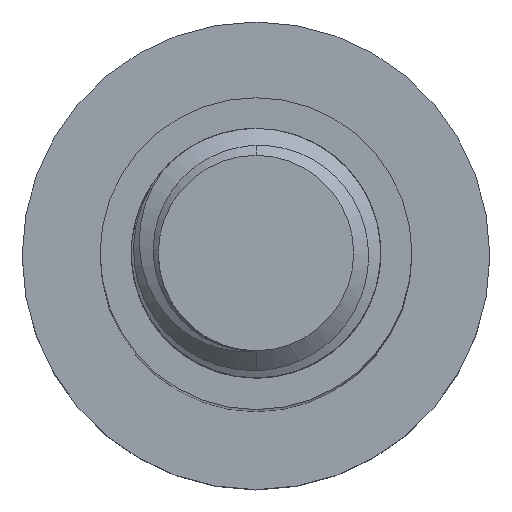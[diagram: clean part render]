
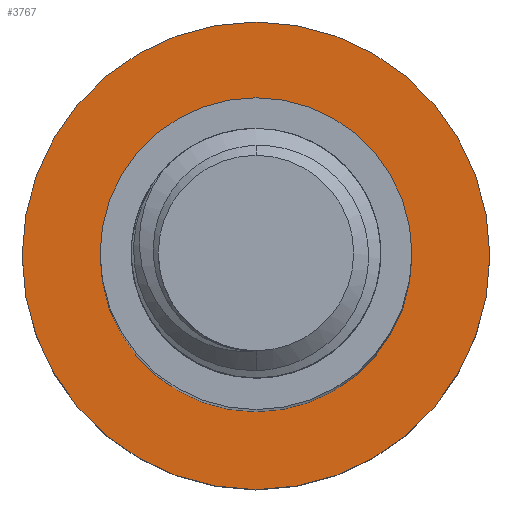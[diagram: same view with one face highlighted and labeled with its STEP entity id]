
A CAD part, top view. The second image highlights one B-rep face of the part: STEP entity #3767.
In plain terms, the highlighted planar face has unit normal (0, 0, 1).
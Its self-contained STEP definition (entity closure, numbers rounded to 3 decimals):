
#112 = EDGE_LOOP ( 'NONE', ( #1262, #1856 ) ) ;
#119 = CARTESIAN_POINT ( 'NONE',  ( -10., 0., -80. ) ) ;
#229 = VERTEX_POINT ( 'NONE', #4167 ) ;
#297 = CARTESIAN_POINT ( 'NONE',  ( 0., 0., -80. ) ) ;
#426 = ORIENTED_EDGE ( 'NONE', *, *, #3698, .T. ) ;
#587 = DIRECTION ( 'NONE',  ( 0., 0., -1. ) ) ;
#716 = DIRECTION ( 'NONE',  ( 0., 0., -1. ) ) ;
#772 = DIRECTION ( 'NONE',  ( 0., 0., -1. ) ) ;
#805 = AXIS2_PLACEMENT_3D ( 'NONE', #3982, #3556, #5312 ) ;
#895 = CIRCLE ( 'NONE', #805, 10. ) ;
#1150 = VERTEX_POINT ( 'NONE', #4763 ) ;
#1176 = DIRECTION ( 'NONE',  ( -1., 0., 0. ) ) ;
#1257 = EDGE_LOOP ( 'NONE', ( #3364, #426 ) ) ;
#1262 = ORIENTED_EDGE ( 'NONE', *, *, #2253, .F. ) ;
#1356 = CIRCLE ( 'NONE', #1810, 15. ) ;
#1576 = PLANE ( 'NONE',  #4303 ) ;
#1661 = EDGE_CURVE ( 'NONE', #2205, #1150, #895, .T. ) ;
#1810 = AXIS2_PLACEMENT_3D ( 'NONE', #3127, #587, #5340 ) ;
#1856 = ORIENTED_EDGE ( 'NONE', *, *, #2531, .F. ) ;
#2205 = VERTEX_POINT ( 'NONE', #119 ) ;
#2253 = EDGE_CURVE ( 'NONE', #3308, #229, #1356, .T. ) ;
#2531 = EDGE_CURVE ( 'NONE', #229, #3308, #3930, .T. ) ;
#3127 = CARTESIAN_POINT ( 'NONE',  ( 0., 0., -80. ) ) ;
#3308 = VERTEX_POINT ( 'NONE', #3705 ) ;
#3338 = CARTESIAN_POINT ( 'NONE',  ( 0., 0., -80. ) ) ;
#3364 = ORIENTED_EDGE ( 'NONE', *, *, #1661, .T. ) ;
#3481 = AXIS2_PLACEMENT_3D ( 'NONE', #3338, #772, #1176 ) ;
#3556 = DIRECTION ( 'NONE',  ( 0., 0., -1. ) ) ;
#3698 = EDGE_CURVE ( 'NONE', #1150, #2205, #5596, .T. ) ;
#3705 = CARTESIAN_POINT ( 'NONE',  ( 15., 0., -80. ) ) ;
#3767 = ADVANCED_FACE ( 'NONE', ( #4984, #5526 ), #1576, .F. ) ;
#3930 = CIRCLE ( 'NONE', #4946, 15. ) ;
#3982 = CARTESIAN_POINT ( 'NONE',  ( 0., 0., -80. ) ) ;
#4167 = CARTESIAN_POINT ( 'NONE',  ( -15., 0., -80. ) ) ;
#4303 = AXIS2_PLACEMENT_3D ( 'NONE', #5096, #716, #5265 ) ;
#4763 = CARTESIAN_POINT ( 'NONE',  ( 10., 0., -80. ) ) ;
#4946 = AXIS2_PLACEMENT_3D ( 'NONE', #297, #5108, #5565 ) ;
#4984 = FACE_BOUND ( 'NONE', #1257, .T. ) ;
#5096 = CARTESIAN_POINT ( 'NONE',  ( 0., 0., -80. ) ) ;
#5108 = DIRECTION ( 'NONE',  ( 0., 0., -1. ) ) ;
#5265 = DIRECTION ( 'NONE',  ( -1., 0., 0. ) ) ;
#5312 = DIRECTION ( 'NONE',  ( -1., 0., 0. ) ) ;
#5340 = DIRECTION ( 'NONE',  ( -1., 0., 0. ) ) ;
#5526 = FACE_OUTER_BOUND ( 'NONE', #112, .T. ) ;
#5565 = DIRECTION ( 'NONE',  ( -1., 0., 0. ) ) ;
#5596 = CIRCLE ( 'NONE', #3481, 10. ) ;
